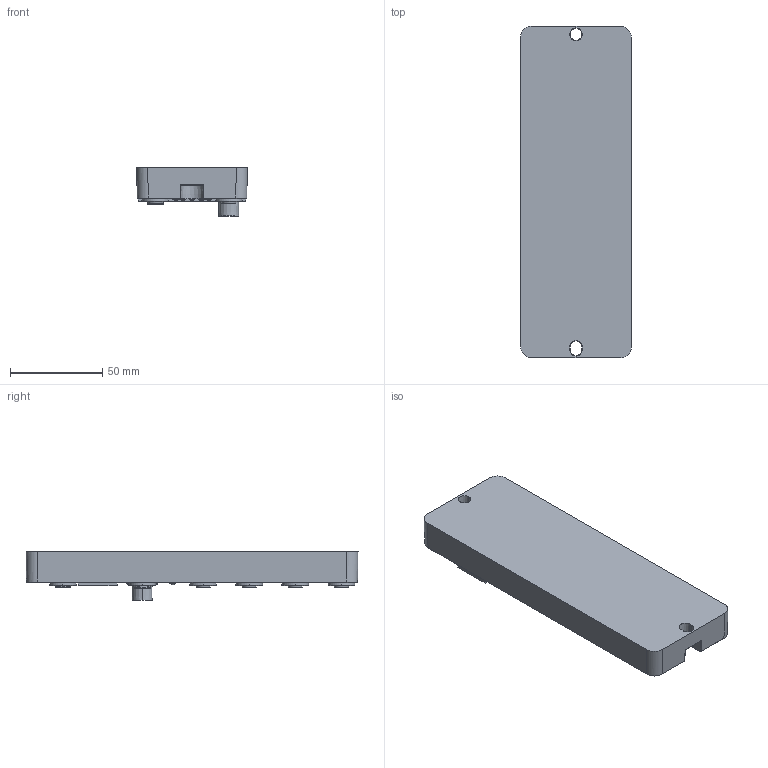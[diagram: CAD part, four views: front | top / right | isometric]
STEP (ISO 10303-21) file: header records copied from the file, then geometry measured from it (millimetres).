
FILE_DESCRIPTION (( 'STEP AP203' ), '1' );
FILE_NAME ('508105015 (PNM16DK£©.STEP', '2023-11-06T10:33:11', ( 'admin' ), ( '' ), 'SwSTEP 2.0', 'SolidWorks 2018', '' );
FILE_SCHEMA (( 'CONFIG_CONTROL_DESIGN' ));
Products named in the file (1): 508105015 (PNM16DK）
Bounding box: 60 x 180 x 26.45 mm (x, y, z)
Volume: 178373.1 mm3; surface area: 44943 mm2
Topology: 1 solids, 5 shells, 1660 faces, 4029 edges, 2575 vertices
Faces by surface type: plane 593, cylinder 542, cone 365, bspline 105, torus 55
Entity records: 51573 total; most frequent: CARTESIAN_POINT 12360, DIRECTION 8465, ORIENTED_EDGE 8018, EDGE_CURVE 4009, AXIS2_PLACEMENT_3D 3332, VERTEX_POINT 2575, EDGE_LOOP 1884, VECTOR 1801
